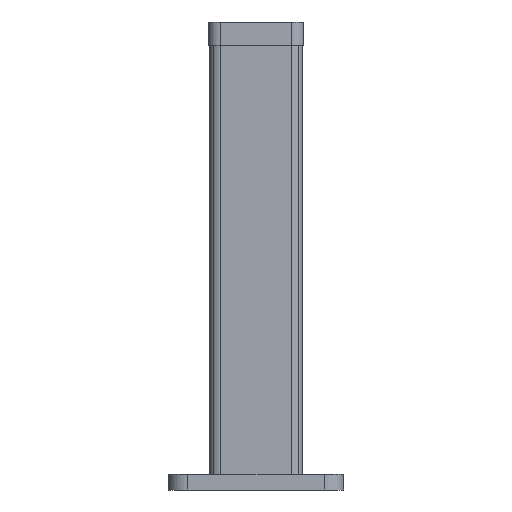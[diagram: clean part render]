
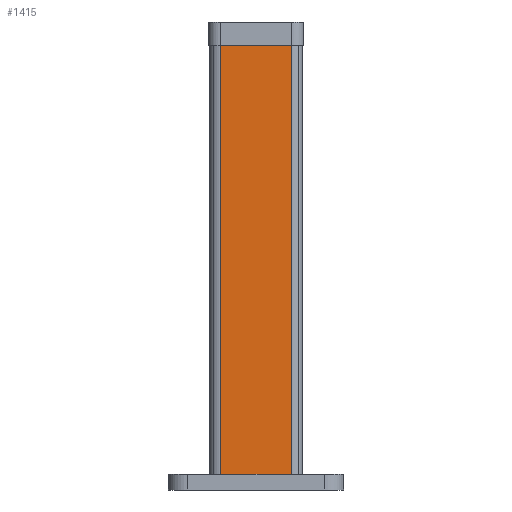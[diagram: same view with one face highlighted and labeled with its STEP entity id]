
A CAD part, left-side view. The second image highlights one B-rep face of the part: STEP entity #1415.
In plain terms, the highlighted planar face has unit normal (-1, 0, 0).
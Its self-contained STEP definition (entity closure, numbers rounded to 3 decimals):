
#115=FACE_OUTER_BOUND('',#200,.T.);
#200=EDGE_LOOP('',(#1177,#1178,#1179,#1180));
#320=LINE('',#2292,#458);
#331=LINE('',#2329,#469);
#332=LINE('',#2332,#470);
#333=LINE('',#2333,#471);
#458=VECTOR('',#1863,18.);
#469=VECTOR('',#1896,110.);
#470=VECTOR('',#1899,18.);
#471=VECTOR('',#1900,110.);
#654=VERTEX_POINT('',#2289);
#655=VERTEX_POINT('',#2291);
#670=VERTEX_POINT('',#2327);
#671=VERTEX_POINT('',#2331);
#830=EDGE_CURVE('',#655,#654,#320,.T.);
#849=EDGE_CURVE('',#670,#654,#331,.T.);
#850=EDGE_CURVE('',#671,#670,#332,.T.);
#851=EDGE_CURVE('',#671,#655,#333,.T.);
#1177=ORIENTED_EDGE('',*,*,#849,.F.);
#1178=ORIENTED_EDGE('',*,*,#850,.F.);
#1179=ORIENTED_EDGE('',*,*,#851,.T.);
#1180=ORIENTED_EDGE('',*,*,#830,.T.);
#1347=PLANE('',#1556);
#1415=ADVANCED_FACE('',(#115),#1347,.T.);
#1556=AXIS2_PLACEMENT_3D('',#2330,#1897,#1898);
#1863=DIRECTION('',(0.,1.,0.));
#1896=DIRECTION('',(0.,0.,1.));
#1897=DIRECTION('center_axis',(-1.,0.,0.));
#1898=DIRECTION('ref_axis',(0.,-1.,0.));
#1899=DIRECTION('',(0.,1.,0.));
#1900=DIRECTION('',(0.,0.,1.));
#2289=CARTESIAN_POINT('',(-12.,86.,67.));
#2291=CARTESIAN_POINT('',(-12.,68.,67.));
#2292=CARTESIAN_POINT('',(-12.,68.,67.));
#2327=CARTESIAN_POINT('',(-12.,86.,-43.));
#2329=CARTESIAN_POINT('',(-12.,86.,-43.));
#2330=CARTESIAN_POINT('Origin',(-12.,77.,69.2));
#2331=CARTESIAN_POINT('',(-12.,68.,-43.));
#2332=CARTESIAN_POINT('',(-12.,68.,-43.));
#2333=CARTESIAN_POINT('',(-12.,68.,-43.));
